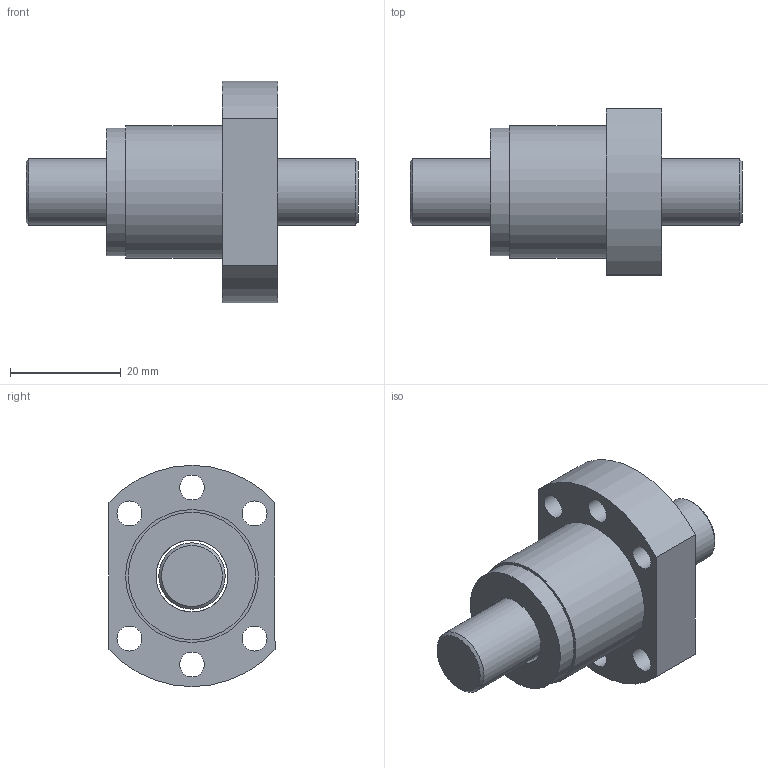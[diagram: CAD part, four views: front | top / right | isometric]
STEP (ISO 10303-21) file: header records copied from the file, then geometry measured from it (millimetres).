
FILE_DESCRIPTION(/* description */ (''),/* implementation_level */ '2;1');
FILE_NAME(/* name */ 'SFS1205',/* time_stamp */ '2007-10-26T09:12:04+08:00',/* author */ (''),/* organization */ (''),/* preprocessor_version */ 'ST-DEVELOPER v9',/* originating_system */ 'UGS - NX 3.0',/* authorisation */ '');
FILE_SCHEMA (('CONFIG_CONTROL_DESIGN'));
Length unit declared in the file: millimetre
Products named in the file (1): jaso37B0hu61
Bounding box: 60 x 30 x 40 mm (x, y, z)
Volume: 21703.6 mm3; surface area: 10702.1 mm2
Topology: 4 solids, 4 shells, 31 faces, 59 edges, 39 vertices
Faces by surface type: cylinder 16, plane 10, bspline 3, cone 2
Full cylindrical faces by diameter (mm): 4.5 x6, 12 x1, 13 x3, 23 x2, 24 x2
Entity records: 878 total; most frequent: CARTESIAN_POINT 174, DIRECTION 130, ORIENTED_EDGE 86, EDGE_LOOP 68, AXIS2_PLACEMENT_3D 61, FACE_BOUND 51, EDGE_CURVE 43, VERTEX_POINT 39
